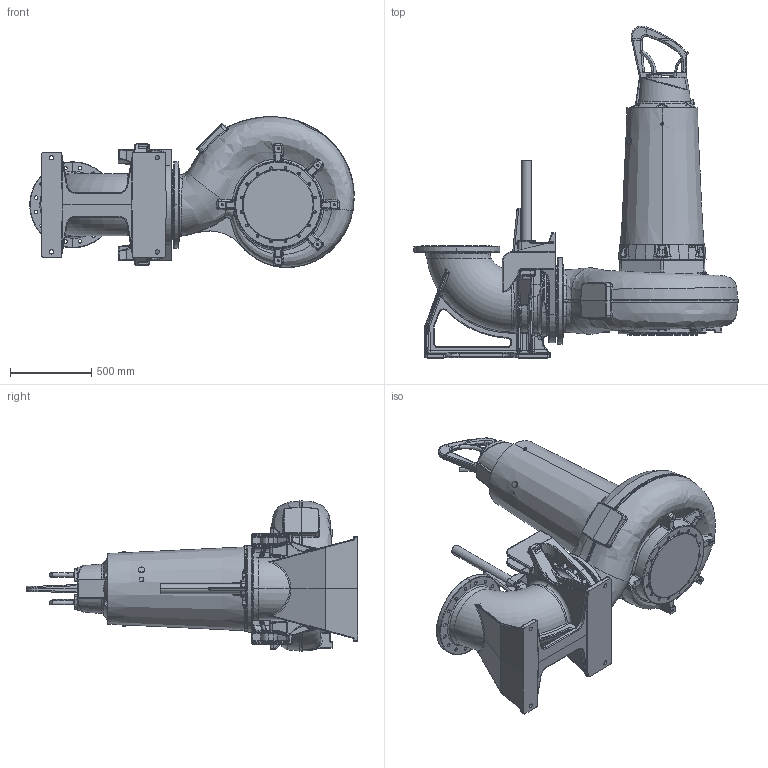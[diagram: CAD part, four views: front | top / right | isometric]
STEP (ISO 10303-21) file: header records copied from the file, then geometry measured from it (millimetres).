
FILE_DESCRIPTION (( 'STEP AP214' ), '1' );
FILE_NAME ('PE5_XFP351M-CH3_WET_A_NG2.STEP', '2017-03-14T07:46:03', ( '' ), ( '' ), 'SwSTEP 2.0', 'SolidWorks 2017', '' );
FILE_SCHEMA (( 'AUTOMOTIVE_DESIGN' ));
Length unit declared in the file: millimetre
Products named in the file (1): PE5_XFP351M-CH3_WET_A_NG2
Bounding box: 1998.47 x 2043.3 x 929.69 mm (x, y, z)
Volume: 589981348.2 mm3; surface area: 9670889 mm2
Topology: 4 solids, 4 shells, 3553 faces, 8882 edges, 5220 vertices
Faces by surface type: cylinder 1132, bspline 1076, plane 659, torus 314, cone 236, sphere 136
Entity records: 242437 total; most frequent: CARTESIAN_POINT 128566, ORIENTED_EDGE 17376, DIRECTION 13592, EDGE_CURVE 8688, AXIS2_PLACEMENT_3D 5462, VERTEX_POINT 5214, EDGE_LOOP 3744, UNCERTAINTY_MEASURE_WITH_UNIT 3559
